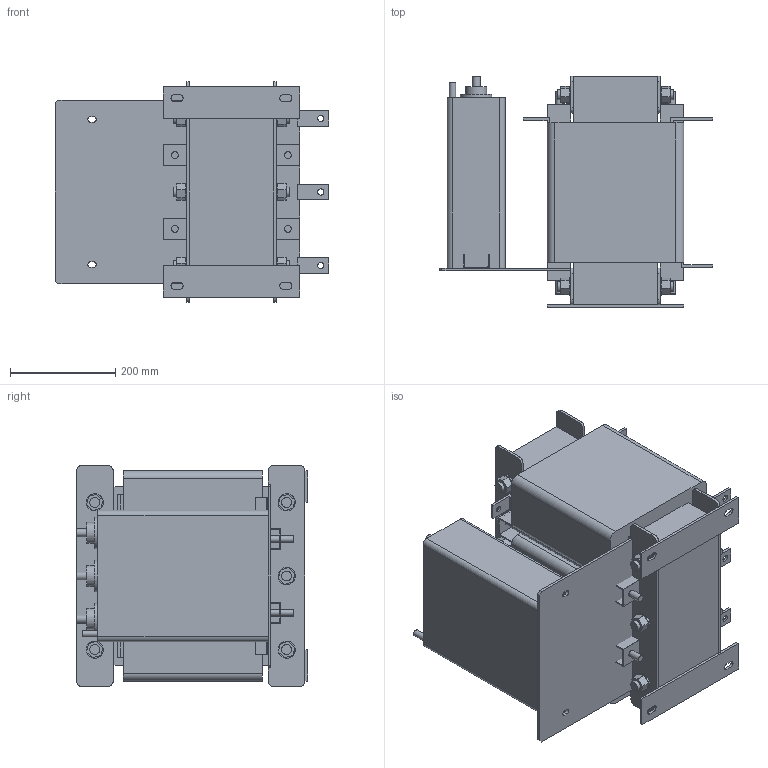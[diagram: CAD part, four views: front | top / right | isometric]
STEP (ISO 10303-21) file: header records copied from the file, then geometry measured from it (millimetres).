
FILE_DESCRIPTION(/* description */ (''),/* implementation_level */ '2;1');
FILE_NAME(/* name */ 'Sin-T6-280.stp',/* time_stamp */ '2025-02-25T11:05:02+04:00',/* author */ ('Лео'),/* organization */ (''),/* preprocessor_version */ 'ST-DEVELOPER v19.2',/* originating_system */ 'Autodesk Inventor 2024',/* authorisation */ '');
FILE_SCHEMA (('AUTOMOTIVE_DESIGN { 1 0 10303 214 3 1 1 }'));
Length unit declared in the file: millimetre
Products named in the file (1): Sin-T6-280
Bounding box: 520 x 440 x 420 mm (x, y, z)
Volume: 44640480.6 mm3; surface area: 2035950 mm2
Topology: 28 solids, 28 shells, 565 faces, 1241 edges, 774 vertices
Faces by surface type: plane 458, cylinder 107
Full cylindrical faces by diameter (mm): 12 x10, 13 x12, 15 x3, 19 x12, 32.562 x12, 40 x3, 60 x3
Entity records: 15317 total; most frequent: DIRECTION 2659, CARTESIAN_POINT 2581, ORIENTED_EDGE 2482, EDGE_CURVE 1241, LINE 955, VECTOR 955, AXIS2_PLACEMENT_3D 852, VERTEX_POINT 774
